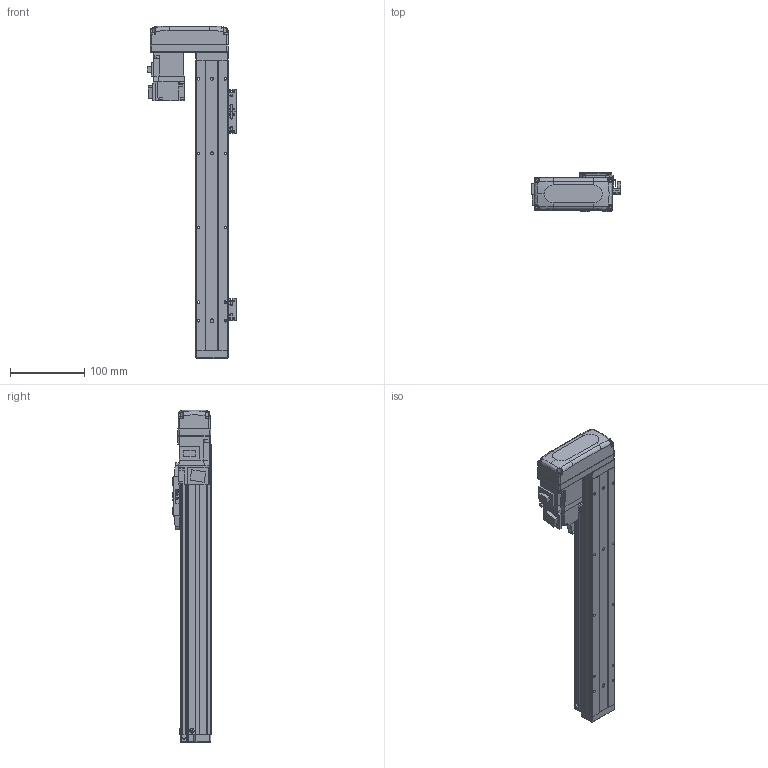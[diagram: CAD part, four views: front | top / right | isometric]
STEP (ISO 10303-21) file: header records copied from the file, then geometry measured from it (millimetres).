
FILE_DESCRIPTION (( 'STEP AP203' ), '1' );
FILE_NAME ('BTH40-250-BR-M05-C4.step', '2021-12-16T00:21:07', ( '微软用户' ), ( '微软中国' ), 'SwSTEP 2.0', 'SolidWorks 2020', '' );
FILE_SCHEMA (( 'CONFIG_CONTROL_DESIGN' ));
Length unit declared in the file: millimetre
Products named in the file (19): GBT 70.1-M2.5×6; BTH40-250-BR-M05-C4; BTH50-028; BTH40-004; BTH50-023; BTH40-013; BTH40-001-50_BTH40-001-250; BTH50-024; HG-KR13; BTH40-003; GBT 70.1-M3℅6; GBT 70.3-M3℅6; BTH40-006; GBT96.1-2002 3×0.8; BTH40-027-1; BTH-M3X5X6; BTH40-022; BTH50-026; GBT70.1-2000 M3×16
Assembly tree (47 placements, depth 2):
  BTH40-250-BR-M05-C4
    BTH40-001-50_BTH40-001-250
    BTH40-003
    BTH40-006
    BTH-M3X5X6  x8
    GBT70.1-2000 M3×16  x4
    BTH50-028  x2
    BTH50-023  x3
    BTH50-024  x3
    GBT 70.1-M3℅6  x6
    GBT96.1-2002 3×0.8  x6
    BTH40-022
    GBT 70.1-M2.5×6  x2
    BTH40-004
    BTH40-013
    HG-KR13
    GBT 70.3-M3℅6  x4
    BTH40-027-1
    BTH50-026
Bounding box: 120 x 52 x 446 mm (x, y, z)
Volume: 909482.8 mm3; surface area: 176656.9 mm2
Topology: 49 solids, 49 shells, 1975 faces, 4635 edges, 2850 vertices
Faces by surface type: plane 1052, cylinder 487, cone 270, torus 128, bspline 34, sphere 4
Entity records: 39395 total; most frequent: CARTESIAN_POINT 7546, DIRECTION 6168, ORIENTED_EDGE 5916, EDGE_CURVE 2958, AXIS2_PLACEMENT_3D 2107, VECTOR 1954, LINE 1954, VERTEX_POINT 1837
